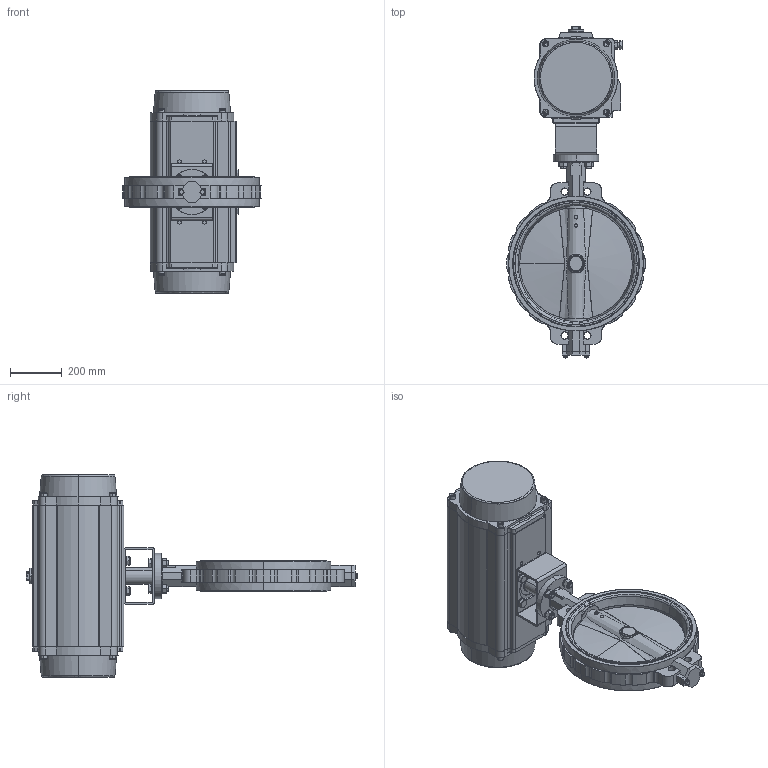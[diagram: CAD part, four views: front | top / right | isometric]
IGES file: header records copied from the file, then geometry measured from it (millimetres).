
Start section: SolidWorks IGES file using analytic representation for surfaces
Global section: file name: H:\BE BIBLIOTHEQUE 3D\BE SECTION 01 - ROBINETS A PAPILLON_VANNES PASSAGE DIRECTE\VP - Vanne Papillon\VPE\WORLDVALVE\WAFER\TECLARGE\VPE440X-N07\DN450\VPE440X-N07XX0450.IGS; native system: SolidWorks 2017; preprocessor: SolidWorks 2017; author: k.gigout; date: 200904.092433; units: millimetre
Bounding box: 537 x 1287 x 784 mm (x, y, z)
Surface area: 2610239.9 mm2 (no closed solid volume)
Topology: 0 solids, 0 shells, 830 faces, 15467 edges, 15451 vertices
Faces by surface type: revolution 428, bspline 402
